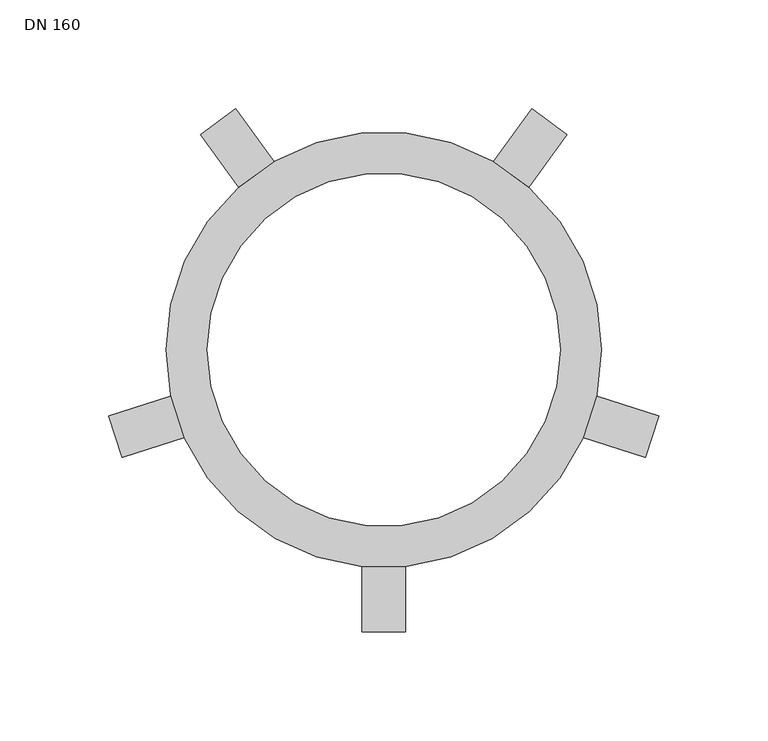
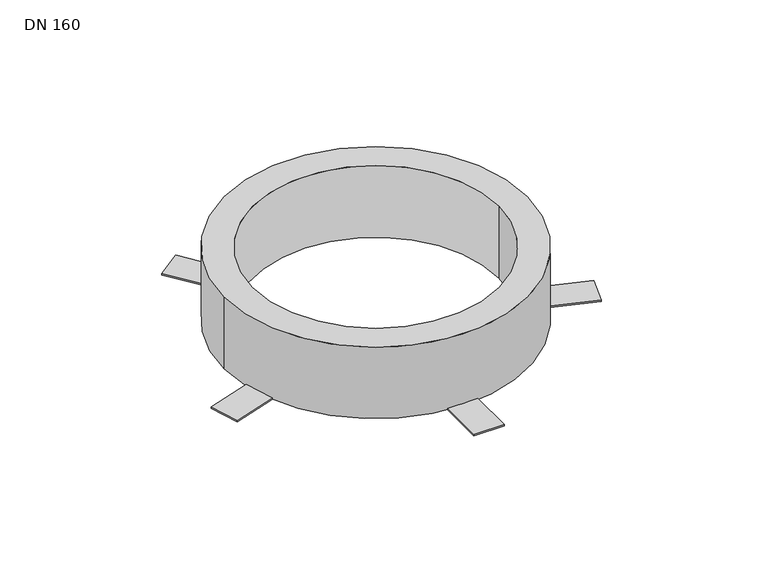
"""IFC4 building model written with IfcOpenShell, lengths in millimetres: proxy geometry, Wavin_SpecialtyEquipment_AsPlusFireCollarForCeilings : DN 160."""

from ifc_helpers import new_model, si_unit, point, origin, origin_with_axes, origin_2d, place, context, project, spatial, polyline, circle_curve, trimmed, segment, composite_curve, outline, extrude, source, transform, mapped, element, save


def dn_160_1776e4c2(model_context):
    return source(origin(), model_context, "Body", "SweptSolid", [
        extrude(outline(composite_curve([segment(polyline([(126.2519888, -30.5071356), (120.0716489, -49.5282659), (91.5387586, -40.2573679)]), True, "CONTINUOUS"), segment(trimmed(circle_curve(origin_2d(), 100.0), [point((91.5387586, -40.2573679))], [point((97.7190985, -21.2362376))], True, "CARTESIAN"), True, "CONTINUOUS"), segment(polyline([(97.7190985, -21.2362376), (126.2519888, -30.5071356)]), True, "CONTINUOUS")], self_intersect=False)), origin_with_axes(), (0.0, 0.0, 1.0), 1.0),
        extrude(outline(composite_curve([segment(polyline([(68.0280202, 110.6455533), (84.2083601, 98.8898482), (66.5740641, 74.6183221)]), True, "CONTINUOUS"), segment(trimmed(circle_curve(origin_2d(), 100.0), [point((66.5740641, 74.6183221))], [point((50.3937242, 86.3740271))], True, "CARTESIAN"), True, "CONTINUOUS"), segment(polyline([(50.3937242, 86.3740271), (68.0280202, 110.6455533)]), True, "CONTINUOUS")], self_intersect=False)), origin_with_axes(), (0.0, 0.0, 1.0), 1.0),
        extrude(outline(composite_curve([segment(polyline([(-84.2083601, 98.8898482), (-68.0280202, 110.6455533), (-50.3937242, 86.3740271)]), True, "CONTINUOUS"), segment(trimmed(circle_curve(origin_2d(), 100.0), [point((-50.3937242, 86.3740271))], [point((-66.5740641, 74.618322))], True, "CARTESIAN"), True, "CONTINUOUS"), segment(polyline([(-66.5740641, 74.618322), (-84.2083601, 98.8898482)]), True, "CONTINUOUS")], self_intersect=False)), origin_with_axes(), (0.0, 0.0, 1.0), 1.0),
        extrude(outline(composite_curve([segment(polyline([(-120.0716489, -49.5282659), (-126.2519888, -30.5071356), (-97.7190985, -21.2362376)]), True, "CONTINUOUS"), segment(trimmed(circle_curve(origin_2d(), 100.0), [point((-97.7190985, -21.2362376))], [point((-91.5387586, -40.2573679))], True, "CARTESIAN"), True, "CONTINUOUS"), segment(polyline([(-91.5387586, -40.2573679), (-120.0716489, -49.5282659)]), True, "CONTINUOUS")], self_intersect=False)), origin_with_axes(), (0.0, 0.0, 1.0), 1.0),
        extrude(outline(composite_curve([segment(polyline([(10.0, -129.5), (-10.0, -129.5), (-10.0, -99.4987437)]), True, "CONTINUOUS"), segment(trimmed(circle_curve(origin_2d(), 100.0), [point((-10.0, -99.4987437))], [point((10.0, -99.4987437))], True, "CARTESIAN"), True, "CONTINUOUS"), segment(polyline([(10.0, -99.4987437), (10.0, -129.5)]), True, "CONTINUOUS")], self_intersect=False)), origin_with_axes(), (0.0, 0.0, 1.0), 1.0),
        extrude(outline(composite_curve([segment(trimmed(circle_curve(origin_2d(), 100.0), [point((-100.0, 0.0))], [point((100.0, 0.0))], False, "CARTESIAN"), True, "CONTINUOUS"), segment(trimmed(circle_curve(origin_2d(), 100.0), [point((100.0, 0.0))], [point((-100.0, 0.0))], False, "CARTESIAN"), True, "CONTINUOUS")], self_intersect=False), holes=[composite_curve([segment(trimmed(circle_curve(origin_2d(), 81.1), [point((-81.1, 0.0))], [point((81.1, 0.0))], True, "CARTESIAN"), True, "CONTINUOUS"), segment(trimmed(circle_curve(origin_2d(), 81.1), [point((81.1, 0.0))], [point((-81.1, 0.0))], True, "CARTESIAN"), True, "CONTINUOUS")], self_intersect=False)]), origin_with_axes(), (0.0, 0.0, 1.0), 50.0),
    ])


if __name__ == "__main__":
    model = new_model("IFC4")
    model_context = context("Model", 3, world=origin())
    ifc_project = project(units=[si_unit("LENGTHUNIT", "METRE", prefix="MILLI")], contexts=[model_context])
    site = spatial("IfcSite", under=ifc_project)
    building = spatial("IfcBuilding", under=site)
    placement = place(None, origin())
    dn_160_shape = dn_160_1776e4c2(model_context)
    element("IfcBuildingElementProxy", 1, Name="Wavin_SpecialtyEquipment_AsPlusFireCollarForCeilings : DN 160", ObjectType="Wavin_SpecialtyEquipment_AsPlusFireCollarForCeilings : DN 160", at=placement, inside=building, context=model_context, shape_type="MappedRepresentation", body=[
        mapped(dn_160_shape, transform((0.0, 0.0, 0.0), x_axis=(1.0, 0.0, 0.0), y_axis=(0.0, 1.0, 0.0), z_axis=(0.0, 0.0, 1.0))),
    ])
    save(model, "model.ifc")
